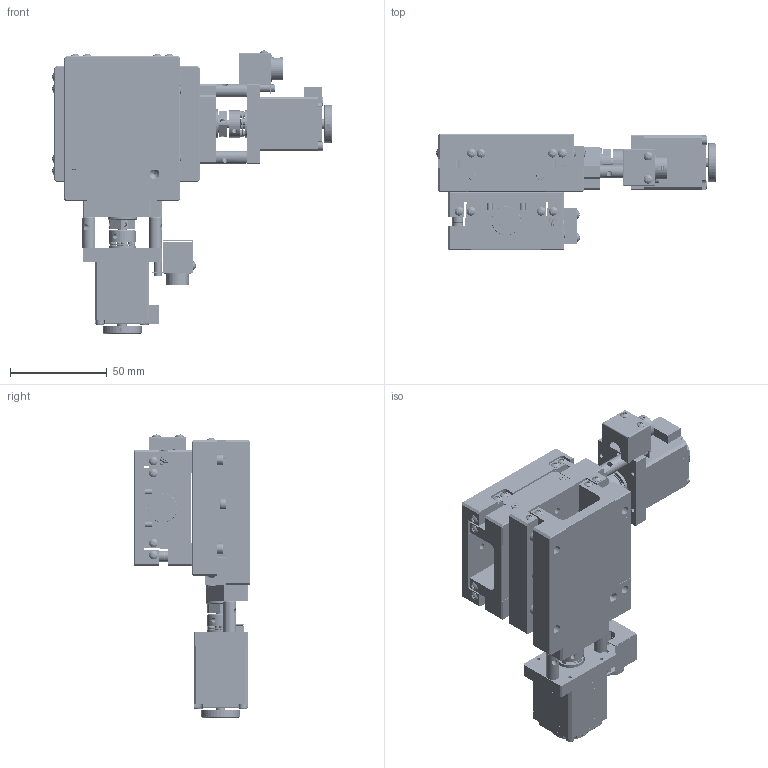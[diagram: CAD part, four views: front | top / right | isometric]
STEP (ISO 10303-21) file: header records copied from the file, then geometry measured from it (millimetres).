
FILE_DESCRIPTION (( 'STEP AP214' ), '1' );
FILE_NAME ('TYS6030B-L1-M28L.STEP', '2025-01-03T09:10:14', ( '' ), ( '' ), 'SwSTEP 2.0', 'SolidWorks 2020', '' );
FILE_SCHEMA (( 'AUTOMOTIVE_DESIGN' ));
Length unit declared in the file: millimetre
Products named in the file (2): TYS6030B-L1-M28L; TXS6030B-L1-M28L
Assembly tree (2 placements, depth 2):
  TYS6030B-L1-M28L
    TXS6030B-L1-M28L  x2
Bounding box: 144.43 x 60 x 146.28 mm (x, y, z)
Volume: 257744.3 mm3; surface area: 125854.3 mm2
Topology: 172 solids, 172 shells, 4032 faces, 10556 edges, 6754 vertices
Faces by surface type: plane 1960, cylinder 1320, cone 368, torus 176, bspline 136, sphere 72
Entity records: 68185 total; most frequent: CARTESIAN_POINT 17805, DIRECTION 10384, ORIENTED_EDGE 10234, EDGE_CURVE 5117, AXIS2_PLACEMENT_3D 3898, VERTEX_POINT 3377, VECTOR 2588, LINE 2588
